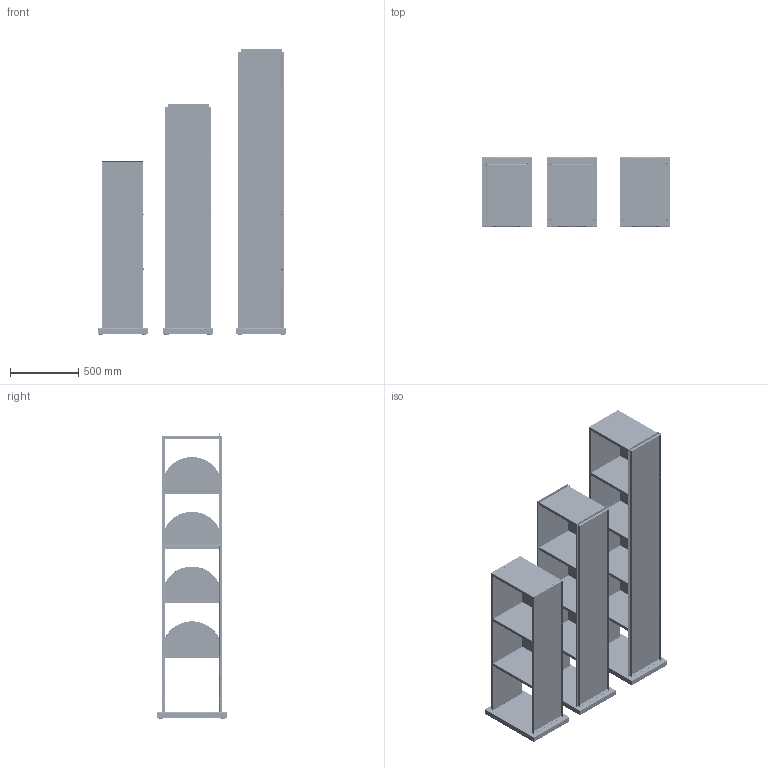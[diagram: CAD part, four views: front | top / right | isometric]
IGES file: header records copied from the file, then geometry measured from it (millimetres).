
Global section: file name: C:\Users\colombo_c\Desktop\Danese\Sito\3D mancanti\Floreana\Floreana.igs; native system: Rhinoceros ( Apr 16 2024 ); preprocessor: Trout Lake IGES 012 Apr 16 2024; date: 250710.101407; units: millimetre
Bounding box: 1379.96 x 507 x 2083.85 mm (x, y, z)
Surface area: 19474292 mm2 (no closed solid volume)
Topology: 0 solids, 0 shells, 8507 faces, 50031 edges, 48471 vertices
Faces by surface type: bspline 8507
